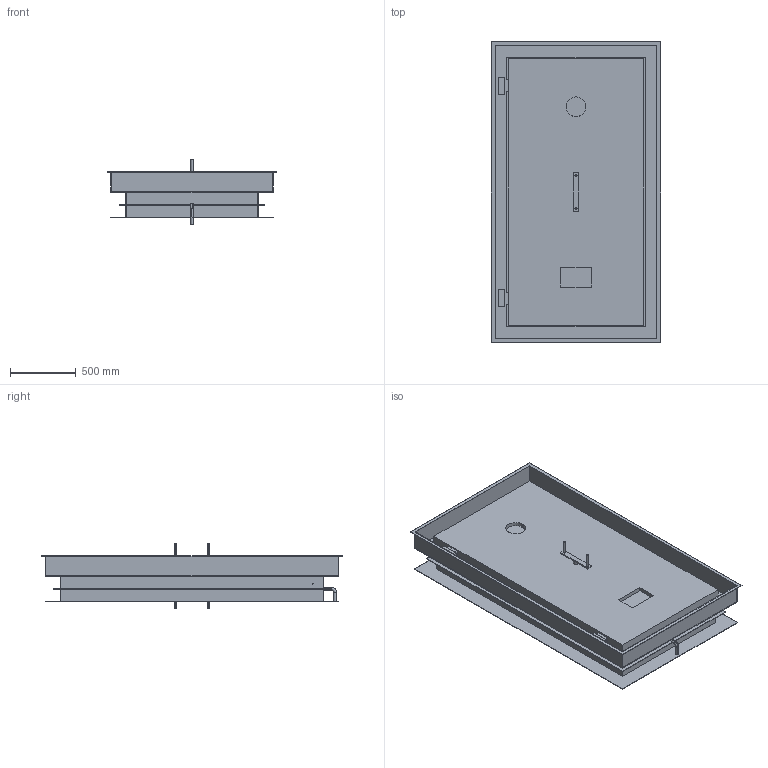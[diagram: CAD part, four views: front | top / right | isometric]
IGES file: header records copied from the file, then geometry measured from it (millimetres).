
Start section:  PTC IGES file: 51331084.igs
Global section: file name: 51331084.igs; native system: Creo Parametric by Parametric Technology Corporation; preprocessor: 2017170; author: bg; organization: Unknown; date: 20190315.110451; units: millimetre
Bounding box: 1290 x 2290 x 495 mm (x, y, z)
Surface area: 13766647.2 mm2 (no closed solid volume)
Topology: 0 solids, 0 shells, 136 faces, 652 edges, 652 vertices
Faces by surface type: bspline 106, revolution 30
